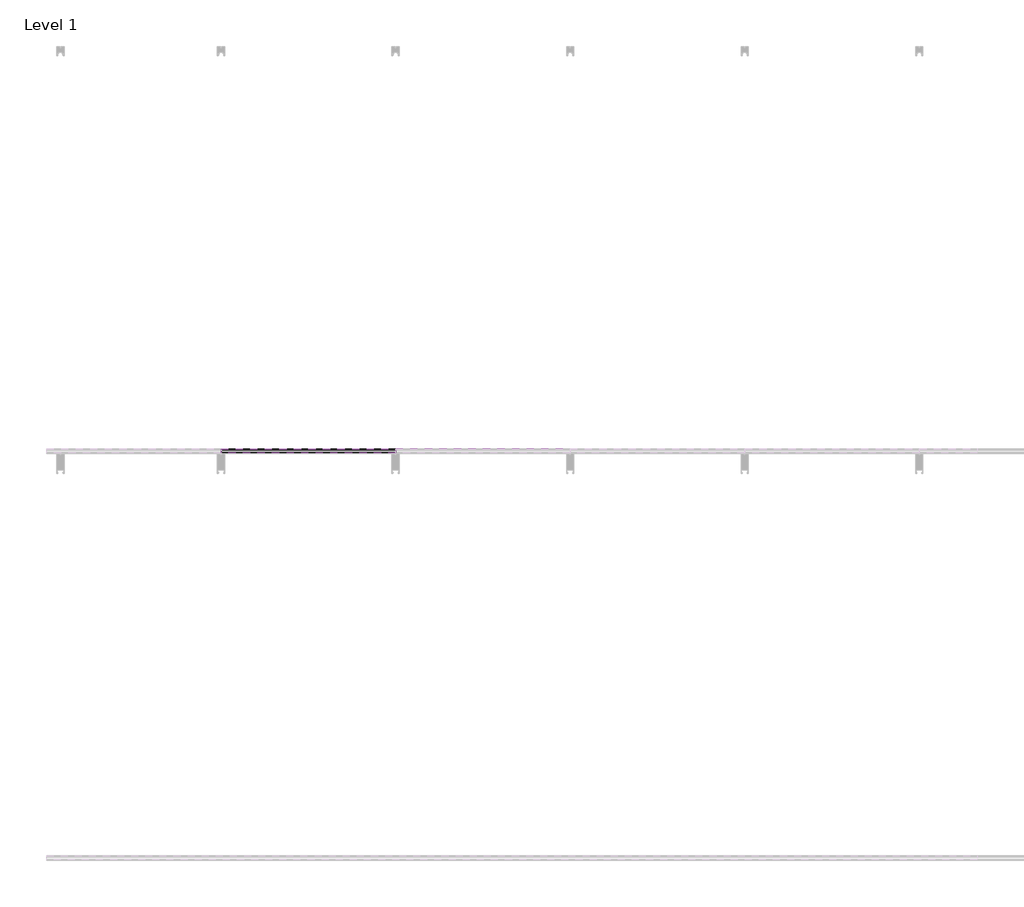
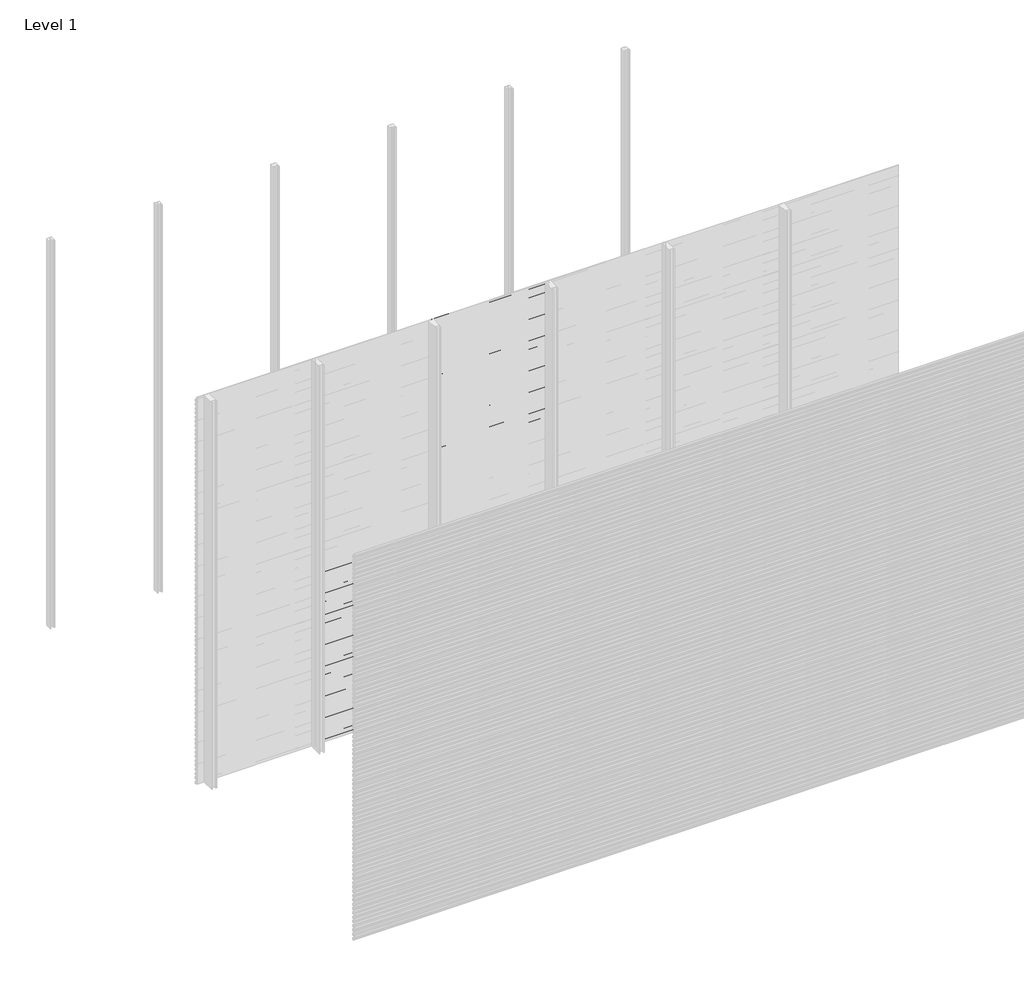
# One storey, part 63 of 96: 77 proxies.
"""IFC4 building model written with IfcOpenShell, lengths in millimetres."""

from ifc_helpers import new_model, si_unit, frame, origin, place, context, project, spatial, polyline, outline, extrude, element, save

model = new_model("IFC4")

# Units and contexts
model_context = context("Model", 3, world=origin())
ifc_project = project(units=[si_unit("LENGTHUNIT", "METRE", prefix="MILLI")], contexts=[model_context])

# Site, building, storey
site = spatial("IfcSite", under=ifc_project)
building = spatial("IfcBuilding", under=site)
storey = spatial("IfcBuildingStorey", under=building, Name="Level 1", Elevation=0.0)

# Proxies
placement = place(None, origin())
element("IfcBuildingElementProxy", 1, Name="Wall Sweeps", at=placement, inside=storey, context=model_context, shape_type="SweptSolid", body=[
    extrude(outline(polyline([(-17977.6, 1373.3655033), (-17977.6, 1359.0779188), (-17982.4114965, 1356.3), (-17982.4114965, 1357.5701706), (-17978.85, 1359.6264016), (-17978.85, 1372.6437382), (-17998.0, 1383.7000799), (-17998.0, 1398.6), (-17996.75, 1398.6), (-17996.75, 1384.4217609), (-17977.6, 1373.3655033)])), frame((857.1428571, 0.0, 0.0), z_axis=(1.0, 0.0, 0.0), x_axis=(0.0, 1.0, 0.0)), (0.0, 0.0, 1.0), 857.1428571),
])
element("IfcBuildingElementProxy", 2, Name="Wall Sweeps", at=placement, inside=storey, context=model_context, shape_type="SweptSolid", body=[
    extrude(outline(polyline([(-17977.6, 1340.0655033), (-17977.6, 1325.7779188), (-17982.4114965, 1323.0), (-17982.4114965, 1324.2701706), (-17978.85, 1326.3264016), (-17978.85, 1339.3437382), (-17998.0, 1350.4000799), (-17998.0, 1365.3), (-17996.75, 1365.3), (-17996.75, 1351.1217609), (-17977.6, 1340.0655033)])), frame((857.1428571, 0.0, 0.0), z_axis=(1.0, 0.0, 0.0), x_axis=(0.0, 1.0, 0.0)), (0.0, 0.0, 1.0), 857.1428571),
])
element("IfcBuildingElementProxy", 3, Name="Wall Sweeps", at=placement, inside=storey, context=model_context, shape_type="SweptSolid", body=[
    extrude(outline(polyline([(-17977.6, 1306.7655033), (-17977.6, 1292.4779188), (-17982.4114965, 1289.7), (-17982.4114965, 1290.9701706), (-17978.85, 1293.0264016), (-17978.85, 1306.0437382), (-17998.0, 1317.1000799), (-17998.0, 1332.0), (-17996.75, 1332.0), (-17996.75, 1317.8217609), (-17977.6, 1306.7655033)])), frame((857.1428571, 0.0, 0.0), z_axis=(1.0, 0.0, 0.0), x_axis=(0.0, 1.0, 0.0)), (0.0, 0.0, 1.0), 857.1428571),
])
element("IfcBuildingElementProxy", 4, Name="Wall Sweeps", at=placement, inside=storey, context=model_context, shape_type="SweptSolid", body=[
    extrude(outline(polyline([(-17977.6, 1273.4655033), (-17977.6, 1259.1779188), (-17982.4114965, 1256.4), (-17982.4114965, 1257.6701706), (-17978.85, 1259.7264016), (-17978.85, 1272.7437382), (-17998.0, 1283.8000799), (-17998.0, 1298.7), (-17996.75, 1298.7), (-17996.75, 1284.5217609), (-17977.6, 1273.4655033)])), frame((857.1428571, 0.0, 0.0), z_axis=(1.0, 0.0, 0.0), x_axis=(0.0, 1.0, 0.0)), (0.0, 0.0, 1.0), 857.1428571),
])
element("IfcBuildingElementProxy", 5, Name="Wall Sweeps", at=placement, inside=storey, context=model_context, shape_type="SweptSolid", body=[
    extrude(outline(polyline([(-17977.6, 1240.1655033), (-17977.6, 1225.8779188), (-17982.4114965, 1223.1), (-17982.4114965, 1224.3701706), (-17978.85, 1226.4264016), (-17978.85, 1239.4437382), (-17998.0, 1250.5000799), (-17998.0, 1265.4), (-17996.75, 1265.4), (-17996.75, 1251.2217609), (-17977.6, 1240.1655033)])), frame((857.1428571, 0.0, 0.0), z_axis=(1.0, 0.0, 0.0), x_axis=(0.0, 1.0, 0.0)), (0.0, 0.0, 1.0), 857.1428571),
])
element("IfcBuildingElementProxy", 6, Name="Wall Sweeps", at=placement, inside=storey, context=model_context, shape_type="SweptSolid", body=[
    extrude(outline(polyline([(-17977.6, 1206.8655033), (-17977.6, 1192.5779188), (-17982.4114965, 1189.8), (-17982.4114965, 1191.0701706), (-17978.85, 1193.1264016), (-17978.85, 1206.1437382), (-17998.0, 1217.2000799), (-17998.0, 1232.1), (-17996.75, 1232.1), (-17996.75, 1217.9217609), (-17977.6, 1206.8655033)])), frame((857.1428571, 0.0, 0.0), z_axis=(1.0, 0.0, 0.0), x_axis=(0.0, 1.0, 0.0)), (0.0, 0.0, 1.0), 857.1428571),
])
element("IfcBuildingElementProxy", 7, Name="Wall Sweeps", at=placement, inside=storey, context=model_context, shape_type="SweptSolid", body=[
    extrude(outline(polyline([(-17977.6, 1173.5655033), (-17977.6, 1159.2779188), (-17982.4114965, 1156.5), (-17982.4114965, 1157.7701706), (-17978.85, 1159.8264016), (-17978.85, 1172.8437382), (-17998.0, 1183.9000799), (-17998.0, 1198.8), (-17996.75, 1198.8), (-17996.75, 1184.6217609), (-17977.6, 1173.5655033)])), frame((857.1428571, 0.0, 0.0), z_axis=(1.0, 0.0, 0.0), x_axis=(0.0, 1.0, 0.0)), (0.0, 0.0, 1.0), 857.1428571),
])
element("IfcBuildingElementProxy", 8, Name="Wall Sweeps", at=placement, inside=storey, context=model_context, shape_type="SweptSolid", body=[
    extrude(outline(polyline([(-17977.6, 1140.2655033), (-17977.6, 1125.9779188), (-17982.4114965, 1123.2), (-17982.4114965, 1124.4701706), (-17978.85, 1126.5264016), (-17978.85, 1139.5437382), (-17998.0, 1150.6000799), (-17998.0, 1165.5), (-17996.75, 1165.5), (-17996.75, 1151.3217609), (-17977.6, 1140.2655033)])), frame((857.1428571, 0.0, 0.0), z_axis=(1.0, 0.0, 0.0), x_axis=(0.0, 1.0, 0.0)), (0.0, 0.0, 1.0), 857.1428571),
])
element("IfcBuildingElementProxy", 9, Name="Wall Sweeps", at=placement, inside=storey, context=model_context, shape_type="SweptSolid", body=[
    extrude(outline(polyline([(-17977.6, 1106.9655033), (-17977.6, 1092.6779188), (-17982.4114965, 1089.9), (-17982.4114965, 1091.1701706), (-17978.85, 1093.2264016), (-17978.85, 1106.2437382), (-17998.0, 1117.3000799), (-17998.0, 1132.2), (-17996.75, 1132.2), (-17996.75, 1118.0217609), (-17977.6, 1106.9655033)])), frame((857.1428571, 0.0, 0.0), z_axis=(1.0, 0.0, 0.0), x_axis=(0.0, 1.0, 0.0)), (0.0, 0.0, 1.0), 857.1428571),
])
element("IfcBuildingElementProxy", 10, Name="Wall Sweeps", at=placement, inside=storey, context=model_context, shape_type="SweptSolid", body=[
    extrude(outline(polyline([(-17977.6, 1073.6655033), (-17977.6, 1059.3779188), (-17982.4114965, 1056.6), (-17982.4114965, 1057.8701706), (-17978.85, 1059.9264016), (-17978.85, 1072.9437382), (-17998.0, 1084.0000799), (-17998.0, 1098.9), (-17996.75, 1098.9), (-17996.75, 1084.7217609), (-17977.6, 1073.6655033)])), frame((857.1428571, 0.0, 0.0), z_axis=(1.0, 0.0, 0.0), x_axis=(0.0, 1.0, 0.0)), (0.0, 0.0, 1.0), 857.1428571),
])
element("IfcBuildingElementProxy", 11, Name="Wall Sweeps", at=placement, inside=storey, context=model_context, shape_type="SweptSolid", body=[
    extrude(outline(polyline([(-17977.6, 1040.3655033), (-17977.6, 1026.0779188), (-17982.4114965, 1023.3), (-17982.4114965, 1024.5701706), (-17978.85, 1026.6264016), (-17978.85, 1039.6437382), (-17998.0, 1050.7000799), (-17998.0, 1065.6), (-17996.75, 1065.6), (-17996.75, 1051.4217609), (-17977.6, 1040.3655033)])), frame((857.1428571, 0.0, 0.0), z_axis=(1.0, 0.0, 0.0), x_axis=(0.0, 1.0, 0.0)), (0.0, 0.0, 1.0), 857.1428571),
])
element("IfcBuildingElementProxy", 12, Name="Wall Sweeps", at=placement, inside=storey, context=model_context, shape_type="SweptSolid", body=[
    extrude(outline(polyline([(-17977.6, 1007.0655033), (-17977.6, 992.7779188), (-17982.4114965, 990.0), (-17982.4114965, 991.2701706), (-17978.85, 993.3264016), (-17978.85, 1006.3437382), (-17998.0, 1017.4000799), (-17998.0, 1032.3), (-17996.75, 1032.3), (-17996.75, 1018.1217609), (-17977.6, 1007.0655033)])), frame((857.1428571, 0.0, 0.0), z_axis=(1.0, 0.0, 0.0), x_axis=(0.0, 1.0, 0.0)), (0.0, 0.0, 1.0), 857.1428571),
])
element("IfcBuildingElementProxy", 13, Name="Wall Sweeps", at=placement, inside=storey, context=model_context, shape_type="SweptSolid", body=[
    extrude(outline(polyline([(-17977.6, 973.7655033), (-17977.6, 959.4779188), (-17982.4114965, 956.7), (-17982.4114965, 957.9701706), (-17978.85, 960.0264016), (-17978.85, 973.0437382), (-17998.0, 984.1000799), (-17998.0, 999.0), (-17996.75, 999.0), (-17996.75, 984.8217609), (-17977.6, 973.7655033)])), frame((857.1428571, 0.0, 0.0), z_axis=(1.0, 0.0, 0.0), x_axis=(0.0, 1.0, 0.0)), (0.0, 0.0, 1.0), 857.1428571),
])
element("IfcBuildingElementProxy", 14, Name="Wall Sweeps", at=placement, inside=storey, context=model_context, shape_type="SweptSolid", body=[
    extrude(outline(polyline([(-17977.6, 940.4655033), (-17977.6, 926.1779188), (-17982.4114965, 923.4), (-17982.4114965, 924.6701706), (-17978.85, 926.7264016), (-17978.85, 939.7437382), (-17998.0, 950.8000799), (-17998.0, 965.7), (-17996.75, 965.7), (-17996.75, 951.5217609), (-17977.6, 940.4655033)])), frame((857.1428571, 0.0, 0.0), z_axis=(1.0, 0.0, 0.0), x_axis=(0.0, 1.0, 0.0)), (0.0, 0.0, 1.0), 857.1428571),
])
element("IfcBuildingElementProxy", 15, Name="Wall Sweeps", at=placement, inside=storey, context=model_context, shape_type="SweptSolid", body=[
    extrude(outline(polyline([(-17977.6, 907.1655033), (-17977.6, 892.8779188), (-17982.4114965, 890.1), (-17982.4114965, 891.3701706), (-17978.85, 893.4264016), (-17978.85, 906.4437382), (-17998.0, 917.5000799), (-17998.0, 932.4), (-17996.75, 932.4), (-17996.75, 918.2217609), (-17977.6, 907.1655033)])), frame((857.1428571, 0.0, 0.0), z_axis=(1.0, 0.0, 0.0), x_axis=(0.0, 1.0, 0.0)), (0.0, 0.0, 1.0), 857.1428571),
])
element("IfcBuildingElementProxy", 16, Name="Wall Sweeps", at=placement, inside=storey, context=model_context, shape_type="SweptSolid", body=[
    extrude(outline(polyline([(-17977.6, 873.8655033), (-17977.6, 859.5779188), (-17982.4114965, 856.8), (-17982.4114965, 858.0701706), (-17978.85, 860.1264016), (-17978.85, 873.1437382), (-17998.0, 884.2000799), (-17998.0, 899.1), (-17996.75, 899.1), (-17996.75, 884.9217609), (-17977.6, 873.8655033)])), frame((857.1428571, 0.0, 0.0), z_axis=(1.0, 0.0, 0.0), x_axis=(0.0, 1.0, 0.0)), (0.0, 0.0, 1.0), 857.1428571),
])
element("IfcBuildingElementProxy", 17, Name="Wall Sweeps", at=placement, inside=storey, context=model_context, shape_type="SweptSolid", body=[
    extrude(outline(polyline([(-17977.6, 840.5655033), (-17977.6, 826.2779188), (-17982.4114965, 823.5), (-17982.4114965, 824.7701706), (-17978.85, 826.8264016), (-17978.85, 839.8437382), (-17998.0, 850.9000799), (-17998.0, 865.8), (-17996.75, 865.8), (-17996.75, 851.6217609), (-17977.6, 840.5655033)])), frame((857.1428571, 0.0, 0.0), z_axis=(1.0, 0.0, 0.0), x_axis=(0.0, 1.0, 0.0)), (0.0, 0.0, 1.0), 857.1428571),
])
element("IfcBuildingElementProxy", 18, Name="Wall Sweeps", at=placement, inside=storey, context=model_context, shape_type="SweptSolid", body=[
    extrude(outline(polyline([(-17977.6, 807.2655033), (-17977.6, 792.9779188), (-17982.4114965, 790.2), (-17982.4114965, 791.4701706), (-17978.85, 793.5264016), (-17978.85, 806.5437382), (-17998.0, 817.6000799), (-17998.0, 832.5), (-17996.75, 832.5), (-17996.75, 818.3217609), (-17977.6, 807.2655033)])), frame((857.1428571, 0.0, 0.0), z_axis=(1.0, 0.0, 0.0), x_axis=(0.0, 1.0, 0.0)), (0.0, 0.0, 1.0), 857.1428571),
])
element("IfcBuildingElementProxy", 19, Name="Wall Sweeps", at=placement, inside=storey, context=model_context, shape_type="SweptSolid", body=[
    extrude(outline(polyline([(-17977.6, 773.9655033), (-17977.6, 759.6779188), (-17982.4114965, 756.9), (-17982.4114965, 758.1701706), (-17978.85, 760.2264016), (-17978.85, 773.2437382), (-17998.0, 784.3000799), (-17998.0, 799.2), (-17996.75, 799.2), (-17996.75, 785.0217609), (-17977.6, 773.9655033)])), frame((857.1428571, 0.0, 0.0), z_axis=(1.0, 0.0, 0.0), x_axis=(0.0, 1.0, 0.0)), (0.0, 0.0, 1.0), 857.1428571),
])
element("IfcBuildingElementProxy", 20, Name="Wall Sweeps", at=placement, inside=storey, context=model_context, shape_type="SweptSolid", body=[
    extrude(outline(polyline([(-17977.6, 740.6655033), (-17977.6, 726.3779188), (-17982.4114965, 723.6), (-17982.4114965, 724.8701706), (-17978.85, 726.9264016), (-17978.85, 739.9437382), (-17998.0, 751.0000799), (-17998.0, 765.9), (-17996.75, 765.9), (-17996.75, 751.7217609), (-17977.6, 740.6655033)])), frame((857.1428571, 0.0, 0.0), z_axis=(1.0, 0.0, 0.0), x_axis=(0.0, 1.0, 0.0)), (0.0, 0.0, 1.0), 857.1428571),
])
element("IfcBuildingElementProxy", 21, Name="Wall Sweeps", at=placement, inside=storey, context=model_context, shape_type="SweptSolid", body=[
    extrude(outline(polyline([(-17977.6, 707.3655033), (-17977.6, 693.0779188), (-17982.4114965, 690.3), (-17982.4114965, 691.5701706), (-17978.85, 693.6264016), (-17978.85, 706.6437382), (-17998.0, 717.7000799), (-17998.0, 732.6), (-17996.75, 732.6), (-17996.75, 718.4217609), (-17977.6, 707.3655033)])), frame((857.1428571, 0.0, 0.0), z_axis=(1.0, 0.0, 0.0), x_axis=(0.0, 1.0, 0.0)), (0.0, 0.0, 1.0), 857.1428571),
])
element("IfcBuildingElementProxy", 22, Name="Wall Sweeps", at=placement, inside=storey, context=model_context, shape_type="SweptSolid", body=[
    extrude(outline(polyline([(-17977.6, 674.0655033), (-17977.6, 659.7779188), (-17982.4114965, 657.0), (-17982.4114965, 658.2701706), (-17978.85, 660.3264016), (-17978.85, 673.3437382), (-17998.0, 684.4000799), (-17998.0, 699.3), (-17996.75, 699.3), (-17996.75, 685.1217609), (-17977.6, 674.0655033)])), frame((857.1428571, 0.0, 0.0), z_axis=(1.0, 0.0, 0.0), x_axis=(0.0, 1.0, 0.0)), (0.0, 0.0, 1.0), 857.1428571),
])
element("IfcBuildingElementProxy", 23, Name="Wall Sweeps", at=placement, inside=storey, context=model_context, shape_type="SweptSolid", body=[
    extrude(outline(polyline([(-17977.6, 640.7655033), (-17977.6, 626.4779188), (-17982.4114965, 623.7), (-17982.4114965, 624.9701706), (-17978.85, 627.0264016), (-17978.85, 640.0437382), (-17998.0, 651.1000799), (-17998.0, 666.0), (-17996.75, 666.0), (-17996.75, 651.8217609), (-17977.6, 640.7655033)])), frame((857.1428571, 0.0, 0.0), z_axis=(1.0, 0.0, 0.0), x_axis=(0.0, 1.0, 0.0)), (0.0, 0.0, 1.0), 857.1428571),
])
element("IfcBuildingElementProxy", 24, Name="Wall Sweeps", at=placement, inside=storey, context=model_context, shape_type="SweptSolid", body=[
    extrude(outline(polyline([(-17977.6, 607.4655033), (-17977.6, 593.1779188), (-17982.4114965, 590.4), (-17982.4114965, 591.6701706), (-17978.85, 593.7264016), (-17978.85, 606.7437382), (-17998.0, 617.8000799), (-17998.0, 632.7), (-17996.75, 632.7), (-17996.75, 618.5217609), (-17977.6, 607.4655033)])), frame((857.1428571, 0.0, 0.0), z_axis=(1.0, 0.0, 0.0), x_axis=(0.0, 1.0, 0.0)), (0.0, 0.0, 1.0), 857.1428571),
])
element("IfcBuildingElementProxy", 25, Name="Wall Sweeps", at=placement, inside=storey, context=model_context, shape_type="SweptSolid", body=[
    extrude(outline(polyline([(-17977.6, 574.1655033), (-17977.6, 559.8779188), (-17982.4114965, 557.1), (-17982.4114965, 558.3701706), (-17978.85, 560.4264016), (-17978.85, 573.4437382), (-17998.0, 584.5000799), (-17998.0, 599.4), (-17996.75, 599.4), (-17996.75, 585.2217609), (-17977.6, 574.1655033)])), frame((857.1428571, 0.0, 0.0), z_axis=(1.0, 0.0, 0.0), x_axis=(0.0, 1.0, 0.0)), (0.0, 0.0, 1.0), 857.1428571),
])
element("IfcBuildingElementProxy", 26, Name="Wall Sweeps", at=placement, inside=storey, context=model_context, shape_type="SweptSolid", body=[
    extrude(outline(polyline([(-17977.6, 540.8655033), (-17977.6, 526.5779188), (-17982.4114965, 523.8), (-17982.4114965, 525.0701706), (-17978.85, 527.1264016), (-17978.85, 540.1437382), (-17998.0, 551.2000799), (-17998.0, 566.1), (-17996.75, 566.1), (-17996.75, 551.9217609), (-17977.6, 540.8655033)])), frame((857.1428571, 0.0, 0.0), z_axis=(1.0, 0.0, 0.0), x_axis=(0.0, 1.0, 0.0)), (0.0, 0.0, 1.0), 857.1428571),
])
element("IfcBuildingElementProxy", 27, Name="Wall Sweeps", at=placement, inside=storey, context=model_context, shape_type="SweptSolid", body=[
    extrude(outline(polyline([(-17977.6, 507.5655033), (-17977.6, 493.2779188), (-17982.4114965, 490.5), (-17982.4114965, 491.7701706), (-17978.85, 493.8264016), (-17978.85, 506.8437382), (-17998.0, 517.9000799), (-17998.0, 532.8), (-17996.75, 532.8), (-17996.75, 518.6217609), (-17977.6, 507.5655033)])), frame((857.1428571, 0.0, 0.0), z_axis=(1.0, 0.0, 0.0), x_axis=(0.0, 1.0, 0.0)), (0.0, 0.0, 1.0), 857.1428571),
])
element("IfcBuildingElementProxy", 28, Name="Wall Sweeps", at=placement, inside=storey, context=model_context, shape_type="SweptSolid", body=[
    extrude(outline(polyline([(-17977.6, 474.2655033), (-17977.6, 459.9779188), (-17982.4114965, 457.2), (-17982.4114965, 458.4701706), (-17978.85, 460.5264016), (-17978.85, 473.5437382), (-17998.0, 484.6000799), (-17998.0, 499.5), (-17996.75, 499.5), (-17996.75, 485.3217609), (-17977.6, 474.2655033)])), frame((857.1428571, 0.0, 0.0), z_axis=(1.0, 0.0, 0.0), x_axis=(0.0, 1.0, 0.0)), (0.0, 0.0, 1.0), 857.1428571),
])
element("IfcBuildingElementProxy", 29, Name="Wall Sweeps", at=placement, inside=storey, context=model_context, shape_type="SweptSolid", body=[
    extrude(outline(polyline([(-17977.6, 440.9655033), (-17977.6, 426.6779188), (-17982.4114965, 423.9), (-17982.4114965, 425.1701706), (-17978.85, 427.2264016), (-17978.85, 440.2437382), (-17998.0, 451.3000799), (-17998.0, 466.2), (-17996.75, 466.2), (-17996.75, 452.0217609), (-17977.6, 440.9655033)])), frame((857.1428571, 0.0, 0.0), z_axis=(1.0, 0.0, 0.0), x_axis=(0.0, 1.0, 0.0)), (0.0, 0.0, 1.0), 857.1428571),
])
element("IfcBuildingElementProxy", 30, Name="Wall Sweeps", at=placement, inside=storey, context=model_context, shape_type="SweptSolid", body=[
    extrude(outline(polyline([(-17977.6, 407.6655033), (-17977.6, 393.3779188), (-17982.4114965, 390.6), (-17982.4114965, 391.8701706), (-17978.85, 393.9264016), (-17978.85, 406.9437382), (-17998.0, 418.0000799), (-17998.0, 432.9), (-17996.75, 432.9), (-17996.75, 418.7217609), (-17977.6, 407.6655033)])), frame((857.1428571, 0.0, 0.0), z_axis=(1.0, 0.0, 0.0), x_axis=(0.0, 1.0, 0.0)), (0.0, 0.0, 1.0), 857.1428571),
])
element("IfcBuildingElementProxy", 31, Name="Wall Sweeps", at=placement, inside=storey, context=model_context, shape_type="SweptSolid", body=[
    extrude(outline(polyline([(-17977.6, 374.3655033), (-17977.6, 360.0779188), (-17982.4114965, 357.3), (-17982.4114965, 358.5701706), (-17978.85, 360.6264016), (-17978.85, 373.6437382), (-17998.0, 384.7000799), (-17998.0, 399.6), (-17996.75, 399.6), (-17996.75, 385.4217609), (-17977.6, 374.3655033)])), frame((857.1428571, 0.0, 0.0), z_axis=(1.0, 0.0, 0.0), x_axis=(0.0, 1.0, 0.0)), (0.0, 0.0, 1.0), 857.1428571),
])
element("IfcBuildingElementProxy", 32, Name="Wall Sweeps", at=placement, inside=storey, context=model_context, shape_type="SweptSolid", body=[
    extrude(outline(polyline([(-17977.6, 341.0655033), (-17977.6, 326.7779188), (-17982.4114965, 324.0), (-17982.4114965, 325.2701706), (-17978.85, 327.3264016), (-17978.85, 340.3437382), (-17998.0, 351.4000799), (-17998.0, 366.3), (-17996.75, 366.3), (-17996.75, 352.1217609), (-17977.6, 341.0655033)])), frame((857.1428571, 0.0, 0.0), z_axis=(1.0, 0.0, 0.0), x_axis=(0.0, 1.0, 0.0)), (0.0, 0.0, 1.0), 857.1428571),
])
element("IfcBuildingElementProxy", 33, Name="Wall Sweeps", at=placement, inside=storey, context=model_context, shape_type="SweptSolid", body=[
    extrude(outline(polyline([(-17977.6, 307.7655033), (-17977.6, 293.4779188), (-17982.4114965, 290.7), (-17982.4114965, 291.9701706), (-17978.85, 294.0264016), (-17978.85, 307.0437382), (-17998.0, 318.1000799), (-17998.0, 333.0), (-17996.75, 333.0), (-17996.75, 318.8217609), (-17977.6, 307.7655033)])), frame((857.1428571, 0.0, 0.0), z_axis=(1.0, 0.0, 0.0), x_axis=(0.0, 1.0, 0.0)), (0.0, 0.0, 1.0), 857.1428571),
])
element("IfcBuildingElementProxy", 34, Name="Wall Sweeps", at=placement, inside=storey, context=model_context, shape_type="SweptSolid", body=[
    extrude(outline(polyline([(-17977.6, 274.4655033), (-17977.6, 260.1779188), (-17982.4114965, 257.4), (-17982.4114965, 258.6701706), (-17978.85, 260.7264016), (-17978.85, 273.7437382), (-17998.0, 284.8000799), (-17998.0, 299.7), (-17996.75, 299.7), (-17996.75, 285.5217609), (-17977.6, 274.4655033)])), frame((857.1428571, 0.0, 0.0), z_axis=(1.0, 0.0, 0.0), x_axis=(0.0, 1.0, 0.0)), (0.0, 0.0, 1.0), 857.1428571),
])
element("IfcBuildingElementProxy", 35, Name="Wall Sweeps", at=placement, inside=storey, context=model_context, shape_type="SweptSolid", body=[
    extrude(outline(polyline([(-17977.6, 241.1655033), (-17977.6, 226.8779188), (-17982.4114965, 224.1), (-17982.4114965, 225.3701706), (-17978.85, 227.4264016), (-17978.85, 240.4437382), (-17998.0, 251.5000799), (-17998.0, 266.4), (-17996.75, 266.4), (-17996.75, 252.2217609), (-17977.6, 241.1655033)])), frame((857.1428571, 0.0, 0.0), z_axis=(1.0, 0.0, 0.0), x_axis=(0.0, 1.0, 0.0)), (0.0, 0.0, 1.0), 857.1428571),
])
element("IfcBuildingElementProxy", 36, Name="Wall Sweeps", at=placement, inside=storey, context=model_context, shape_type="SweptSolid", body=[
    extrude(outline(polyline([(-17977.6, 207.8655033), (-17977.6, 193.5779188), (-17982.4114965, 190.8), (-17982.4114965, 192.0701706), (-17978.85, 194.1264016), (-17978.85, 207.1437382), (-17998.0, 218.2000799), (-17998.0, 233.1), (-17996.75, 233.1), (-17996.75, 218.9217609), (-17977.6, 207.8655033)])), frame((857.1428571, 0.0, 0.0), z_axis=(1.0, 0.0, 0.0), x_axis=(0.0, 1.0, 0.0)), (0.0, 0.0, 1.0), 857.1428571),
])
element("IfcBuildingElementProxy", 37, Name="Wall Sweeps", at=placement, inside=storey, context=model_context, shape_type="SweptSolid", body=[
    extrude(outline(polyline([(-17977.6, 174.5655033), (-17977.6, 160.2779188), (-17982.4114965, 157.5), (-17982.4114965, 158.7701706), (-17978.85, 160.8264016), (-17978.85, 173.8437382), (-17998.0, 184.9000799), (-17998.0, 199.8), (-17996.75, 199.8), (-17996.75, 185.6217609), (-17977.6, 174.5655033)])), frame((857.1428571, 0.0, 0.0), z_axis=(1.0, 0.0, 0.0), x_axis=(0.0, 1.0, 0.0)), (0.0, 0.0, 1.0), 857.1428571),
])
element("IfcBuildingElementProxy", 38, Name="Wall Sweeps", at=placement, inside=storey, context=model_context, shape_type="SweptSolid", body=[
    extrude(outline(polyline([(-17977.6, 141.2655033), (-17977.6, 126.9779188), (-17982.4114965, 124.2), (-17982.4114965, 125.4701706), (-17978.85, 127.5264016), (-17978.85, 140.5437382), (-17998.0, 151.6000799), (-17998.0, 166.5), (-17996.75, 166.5), (-17996.75, 152.3217609), (-17977.6, 141.2655033)])), frame((857.1428571, 0.0, 0.0), z_axis=(1.0, 0.0, 0.0), x_axis=(0.0, 1.0, 0.0)), (0.0, 0.0, 1.0), 857.1428571),
])
element("IfcBuildingElementProxy", 39, Name="Wall Sweeps", at=placement, inside=storey, context=model_context, shape_type="SweptSolid", body=[
    extrude(outline(polyline([(-17977.6, 107.9655033), (-17977.6, 93.6779188), (-17982.4114965, 90.9), (-17982.4114965, 92.1701706), (-17978.85, 94.2264016), (-17978.85, 107.2437382), (-17998.0, 118.3000799), (-17998.0, 133.2), (-17996.75, 133.2), (-17996.75, 119.0217609), (-17977.6, 107.9655033)])), frame((857.1428571, 0.0, 0.0), z_axis=(1.0, 0.0, 0.0), x_axis=(0.0, 1.0, 0.0)), (0.0, 0.0, 1.0), 857.1428571),
])
element("IfcBuildingElementProxy", 40, Name="Wall Sweeps", at=placement, inside=storey, context=model_context, shape_type="SweptSolid", body=[
    extrude(outline(polyline([(-17977.6, 74.6655033), (-17977.6, 60.3779188), (-17982.4114965, 57.6), (-17982.4114965, 58.8701706), (-17978.85, 60.9264016), (-17978.85, 73.9437382), (-17998.0, 85.0000799), (-17998.0, 99.9), (-17996.75, 99.9), (-17996.75, 85.7217609), (-17977.6, 74.6655033)])), frame((857.1428571, 0.0, 0.0), z_axis=(1.0, 0.0, 0.0), x_axis=(0.0, 1.0, 0.0)), (0.0, 0.0, 1.0), 857.1428571),
])
element("IfcBuildingElementProxy", 41, Name="Wall Sweeps", at=placement, inside=storey, context=model_context, shape_type="SweptSolid", body=[
    extrude(outline(polyline([(-17977.6, 41.3655033), (-17977.6, 27.0779188), (-17982.4114965, 24.3), (-17982.4114965, 25.5701706), (-17978.85, 27.6264016), (-17978.85, 40.6437382), (-17998.0, 51.7000799), (-17998.0, 66.6), (-17996.75, 66.6), (-17996.75, 52.4217609), (-17977.6, 41.3655033)])), frame((857.1428571, 0.0, 0.0), z_axis=(1.0, 0.0, 0.0), x_axis=(0.0, 1.0, 0.0)), (0.0, 0.0, 1.0), 857.1428571),
])
element("IfcBuildingElementProxy", 42, Name="Wall Sweeps", at=placement, inside=storey, context=model_context, shape_type="SweptSolid", body=[
    extrude(outline(polyline([(-17977.6, 8.0655033), (-17977.6, -6.2220812), (-17982.4114965, -9.0), (-17982.4114965, -7.7298294), (-17978.85, -5.6735984), (-17978.85, 7.3437382), (-17998.0, 18.4000799), (-17998.0, 33.3), (-17996.75, 33.3), (-17996.75, 19.1217609), (-17977.6, 8.0655033)])), frame((857.1428571, 0.0, 0.0), z_axis=(1.0, 0.0, 0.0), x_axis=(0.0, 1.0, 0.0)), (0.0, 0.0, 1.0), 857.1428571),
])
element("IfcBuildingElementProxy", 43, Name="Wall Sweeps", at=placement, inside=storey, context=model_context, shape_type="SweptSolid", body=[
    extrude(outline(polyline([(-17977.6, 2971.7655033), (-17977.6, 2957.4779188), (-17982.4114965, 2954.7), (-17982.4114965, 2955.9701706), (-17978.85, 2958.0264016), (-17978.85, 2971.0437382), (-17998.0, 2982.1000799), (-17998.0, 2997.0), (-17996.75, 2997.0), (-17996.75, 2982.8217609), (-17977.6, 2971.7655033)])), frame((1714.2857143, 0.0, 0.0), z_axis=(1.0, 0.0, 0.0), x_axis=(0.0, 1.0, 0.0)), (0.0, 0.0, 1.0), 857.1428571),
])
element("IfcBuildingElementProxy", 44, Name="Wall Sweeps", at=placement, inside=storey, context=model_context, shape_type="SweptSolid", body=[
    extrude(outline(polyline([(-17977.6, 2938.4655033), (-17977.6, 2924.1779188), (-17982.4114965, 2921.4), (-17982.4114965, 2922.6701706), (-17978.85, 2924.7264016), (-17978.85, 2937.7437382), (-17998.0, 2948.8000799), (-17998.0, 2963.7), (-17996.75, 2963.7), (-17996.75, 2949.5217609), (-17977.6, 2938.4655033)])), frame((1714.2857143, 0.0, 0.0), z_axis=(1.0, 0.0, 0.0), x_axis=(0.0, 1.0, 0.0)), (0.0, 0.0, 1.0), 857.1428571),
])
element("IfcBuildingElementProxy", 45, Name="Wall Sweeps", at=placement, inside=storey, context=model_context, shape_type="SweptSolid", body=[
    extrude(outline(polyline([(-17977.6, 2905.1655033), (-17977.6, 2890.8779188), (-17982.4114965, 2888.1), (-17982.4114965, 2889.3701706), (-17978.85, 2891.4264016), (-17978.85, 2904.4437382), (-17998.0, 2915.5000799), (-17998.0, 2930.4), (-17996.75, 2930.4), (-17996.75, 2916.2217609), (-17977.6, 2905.1655033)])), frame((1714.2857143, 0.0, 0.0), z_axis=(1.0, 0.0, 0.0), x_axis=(0.0, 1.0, 0.0)), (0.0, 0.0, 1.0), 857.1428571),
])
element("IfcBuildingElementProxy", 46, Name="Wall Sweeps", at=placement, inside=storey, context=model_context, shape_type="SweptSolid", body=[
    extrude(outline(polyline([(-17977.6, 2871.8655033), (-17977.6, 2857.5779188), (-17982.4114965, 2854.8), (-17982.4114965, 2856.0701706), (-17978.85, 2858.1264016), (-17978.85, 2871.1437382), (-17998.0, 2882.2000799), (-17998.0, 2897.1), (-17996.75, 2897.1), (-17996.75, 2882.9217609), (-17977.6, 2871.8655033)])), frame((1714.2857143, 0.0, 0.0), z_axis=(1.0, 0.0, 0.0), x_axis=(0.0, 1.0, 0.0)), (0.0, 0.0, 1.0), 857.1428571),
])
element("IfcBuildingElementProxy", 47, Name="Wall Sweeps", at=placement, inside=storey, context=model_context, shape_type="SweptSolid", body=[
    extrude(outline(polyline([(-17977.6, 2838.5655033), (-17977.6, 2824.2779188), (-17982.4114965, 2821.5), (-17982.4114965, 2822.7701706), (-17978.85, 2824.8264016), (-17978.85, 2837.8437382), (-17998.0, 2848.9000799), (-17998.0, 2863.8), (-17996.75, 2863.8), (-17996.75, 2849.6217609), (-17977.6, 2838.5655033)])), frame((1714.2857143, 0.0, 0.0), z_axis=(1.0, 0.0, 0.0), x_axis=(0.0, 1.0, 0.0)), (0.0, 0.0, 1.0), 857.1428571),
])
element("IfcBuildingElementProxy", 48, Name="Wall Sweeps", at=placement, inside=storey, context=model_context, shape_type="SweptSolid", body=[
    extrude(outline(polyline([(-17977.6, 2805.2655033), (-17977.6, 2790.9779188), (-17982.4114965, 2788.2), (-17982.4114965, 2789.4701706), (-17978.85, 2791.5264016), (-17978.85, 2804.5437382), (-17998.0, 2815.6000799), (-17998.0, 2830.5), (-17996.75, 2830.5), (-17996.75, 2816.3217609), (-17977.6, 2805.2655033)])), frame((1714.2857143, 0.0, 0.0), z_axis=(1.0, 0.0, 0.0), x_axis=(0.0, 1.0, 0.0)), (0.0, 0.0, 1.0), 857.1428571),
])
element("IfcBuildingElementProxy", 49, Name="Wall Sweeps", at=placement, inside=storey, context=model_context, shape_type="SweptSolid", body=[
    extrude(outline(polyline([(-17977.6, 2771.9655033), (-17977.6, 2757.6779188), (-17982.4114965, 2754.9), (-17982.4114965, 2756.1701706), (-17978.85, 2758.2264016), (-17978.85, 2771.2437382), (-17998.0, 2782.3000799), (-17998.0, 2797.2), (-17996.75, 2797.2), (-17996.75, 2783.0217609), (-17977.6, 2771.9655033)])), frame((1714.2857143, 0.0, 0.0), z_axis=(1.0, 0.0, 0.0), x_axis=(0.0, 1.0, 0.0)), (0.0, 0.0, 1.0), 857.1428571),
])
element("IfcBuildingElementProxy", 50, Name="Wall Sweeps", at=placement, inside=storey, context=model_context, shape_type="SweptSolid", body=[
    extrude(outline(polyline([(-17977.6, 2738.6655033), (-17977.6, 2724.3779188), (-17982.4114965, 2721.6), (-17982.4114965, 2722.8701706), (-17978.85, 2724.9264016), (-17978.85, 2737.9437382), (-17998.0, 2749.0000799), (-17998.0, 2763.9), (-17996.75, 2763.9), (-17996.75, 2749.7217609), (-17977.6, 2738.6655033)])), frame((1714.2857143, 0.0, 0.0), z_axis=(1.0, 0.0, 0.0), x_axis=(0.0, 1.0, 0.0)), (0.0, 0.0, 1.0), 857.1428571),
])
element("IfcBuildingElementProxy", 51, Name="Wall Sweeps", at=placement, inside=storey, context=model_context, shape_type="SweptSolid", body=[
    extrude(outline(polyline([(-17977.6, 2705.3655033), (-17977.6, 2691.0779188), (-17982.4114965, 2688.3), (-17982.4114965, 2689.5701706), (-17978.85, 2691.6264016), (-17978.85, 2704.6437382), (-17998.0, 2715.7000799), (-17998.0, 2730.6), (-17996.75, 2730.6), (-17996.75, 2716.4217609), (-17977.6, 2705.3655033)])), frame((1714.2857143, 0.0, 0.0), z_axis=(1.0, 0.0, 0.0), x_axis=(0.0, 1.0, 0.0)), (0.0, 0.0, 1.0), 857.1428571),
])
element("IfcBuildingElementProxy", 52, Name="Wall Sweeps", at=placement, inside=storey, context=model_context, shape_type="SweptSolid", body=[
    extrude(outline(polyline([(-17977.6, 2672.0655033), (-17977.6, 2657.7779188), (-17982.4114965, 2655.0), (-17982.4114965, 2656.2701706), (-17978.85, 2658.3264016), (-17978.85, 2671.3437382), (-17998.0, 2682.4000799), (-17998.0, 2697.3), (-17996.75, 2697.3), (-17996.75, 2683.1217609), (-17977.6, 2672.0655033)])), frame((1714.2857143, 0.0, 0.0), z_axis=(1.0, 0.0, 0.0), x_axis=(0.0, 1.0, 0.0)), (0.0, 0.0, 1.0), 857.1428571),
])
element("IfcBuildingElementProxy", 53, Name="Wall Sweeps", at=placement, inside=storey, context=model_context, shape_type="SweptSolid", body=[
    extrude(outline(polyline([(-17977.6, 2638.7655033), (-17977.6, 2624.4779188), (-17982.4114965, 2621.7), (-17982.4114965, 2622.9701706), (-17978.85, 2625.0264016), (-17978.85, 2638.0437382), (-17998.0, 2649.1000799), (-17998.0, 2664.0), (-17996.75, 2664.0), (-17996.75, 2649.8217609), (-17977.6, 2638.7655033)])), frame((1714.2857143, 0.0, 0.0), z_axis=(1.0, 0.0, 0.0), x_axis=(0.0, 1.0, 0.0)), (0.0, 0.0, 1.0), 857.1428571),
])
element("IfcBuildingElementProxy", 54, Name="Wall Sweeps", at=placement, inside=storey, context=model_context, shape_type="SweptSolid", body=[
    extrude(outline(polyline([(-17977.6, 2605.4655033), (-17977.6, 2591.1779188), (-17982.4114965, 2588.4), (-17982.4114965, 2589.6701706), (-17978.85, 2591.7264016), (-17978.85, 2604.7437382), (-17998.0, 2615.8000799), (-17998.0, 2630.7), (-17996.75, 2630.7), (-17996.75, 2616.5217609), (-17977.6, 2605.4655033)])), frame((1714.2857143, 0.0, 0.0), z_axis=(1.0, 0.0, 0.0), x_axis=(0.0, 1.0, 0.0)), (0.0, 0.0, 1.0), 857.1428571),
])
element("IfcBuildingElementProxy", 55, Name="Wall Sweeps", at=placement, inside=storey, context=model_context, shape_type="SweptSolid", body=[
    extrude(outline(polyline([(-17977.6, 2572.1655033), (-17977.6, 2557.8779188), (-17982.4114965, 2555.1), (-17982.4114965, 2556.3701706), (-17978.85, 2558.4264016), (-17978.85, 2571.4437382), (-17998.0, 2582.5000799), (-17998.0, 2597.4), (-17996.75, 2597.4), (-17996.75, 2583.2217609), (-17977.6, 2572.1655033)])), frame((1714.2857143, 0.0, 0.0), z_axis=(1.0, 0.0, 0.0), x_axis=(0.0, 1.0, 0.0)), (0.0, 0.0, 1.0), 857.1428571),
])
element("IfcBuildingElementProxy", 56, Name="Wall Sweeps", at=placement, inside=storey, context=model_context, shape_type="SweptSolid", body=[
    extrude(outline(polyline([(-17977.6, 2538.8655033), (-17977.6, 2524.5779188), (-17982.4114965, 2521.8), (-17982.4114965, 2523.0701706), (-17978.85, 2525.1264016), (-17978.85, 2538.1437382), (-17998.0, 2549.2000799), (-17998.0, 2564.1), (-17996.75, 2564.1), (-17996.75, 2549.9217609), (-17977.6, 2538.8655033)])), frame((1714.2857143, 0.0, 0.0), z_axis=(1.0, 0.0, 0.0), x_axis=(0.0, 1.0, 0.0)), (0.0, 0.0, 1.0), 857.1428571),
])
element("IfcBuildingElementProxy", 57, Name="Wall Sweeps", at=placement, inside=storey, context=model_context, shape_type="SweptSolid", body=[
    extrude(outline(polyline([(-17977.6, 2505.5655033), (-17977.6, 2491.2779188), (-17982.4114965, 2488.5), (-17982.4114965, 2489.7701706), (-17978.85, 2491.8264016), (-17978.85, 2504.8437382), (-17998.0, 2515.9000799), (-17998.0, 2530.8), (-17996.75, 2530.8), (-17996.75, 2516.6217609), (-17977.6, 2505.5655033)])), frame((1714.2857143, 0.0, 0.0), z_axis=(1.0, 0.0, 0.0), x_axis=(0.0, 1.0, 0.0)), (0.0, 0.0, 1.0), 857.1428571),
])
element("IfcBuildingElementProxy", 58, Name="Wall Sweeps", at=placement, inside=storey, context=model_context, shape_type="SweptSolid", body=[
    extrude(outline(polyline([(-17977.6, 2472.2655033), (-17977.6, 2457.9779188), (-17982.4114965, 2455.2), (-17982.4114965, 2456.4701706), (-17978.85, 2458.5264016), (-17978.85, 2471.5437382), (-17998.0, 2482.6000799), (-17998.0, 2497.5), (-17996.75, 2497.5), (-17996.75, 2483.3217609), (-17977.6, 2472.2655033)])), frame((1714.2857143, 0.0, 0.0), z_axis=(1.0, 0.0, 0.0), x_axis=(0.0, 1.0, 0.0)), (0.0, 0.0, 1.0), 857.1428571),
])
element("IfcBuildingElementProxy", 59, Name="Wall Sweeps", at=placement, inside=storey, context=model_context, shape_type="SweptSolid", body=[
    extrude(outline(polyline([(-17977.6, 2438.9655033), (-17977.6, 2424.6779188), (-17982.4114965, 2421.9), (-17982.4114965, 2423.1701706), (-17978.85, 2425.2264016), (-17978.85, 2438.2437382), (-17998.0, 2449.3000799), (-17998.0, 2464.2), (-17996.75, 2464.2), (-17996.75, 2450.0217609), (-17977.6, 2438.9655033)])), frame((1714.2857143, 0.0, 0.0), z_axis=(1.0, 0.0, 0.0), x_axis=(0.0, 1.0, 0.0)), (0.0, 0.0, 1.0), 857.1428571),
])
element("IfcBuildingElementProxy", 60, Name="Wall Sweeps", at=placement, inside=storey, context=model_context, shape_type="SweptSolid", body=[
    extrude(outline(polyline([(-17977.6, 2405.6655033), (-17977.6, 2391.3779188), (-17982.4114965, 2388.6), (-17982.4114965, 2389.8701706), (-17978.85, 2391.9264016), (-17978.85, 2404.9437382), (-17998.0, 2416.0000799), (-17998.0, 2430.9), (-17996.75, 2430.9), (-17996.75, 2416.7217609), (-17977.6, 2405.6655033)])), frame((1714.2857143, 0.0, 0.0), z_axis=(1.0, 0.0, 0.0), x_axis=(0.0, 1.0, 0.0)), (0.0, 0.0, 1.0), 857.1428571),
])
element("IfcBuildingElementProxy", 61, Name="Wall Sweeps", at=placement, inside=storey, context=model_context, shape_type="SweptSolid", body=[
    extrude(outline(polyline([(-17977.6, 2372.3655033), (-17977.6, 2358.0779188), (-17982.4114965, 2355.3), (-17982.4114965, 2356.5701706), (-17978.85, 2358.6264016), (-17978.85, 2371.6437382), (-17998.0, 2382.7000799), (-17998.0, 2397.6), (-17996.75, 2397.6), (-17996.75, 2383.4217609), (-17977.6, 2372.3655033)])), frame((1714.2857143, 0.0, 0.0), z_axis=(1.0, 0.0, 0.0), x_axis=(0.0, 1.0, 0.0)), (0.0, 0.0, 1.0), 857.1428571),
])
element("IfcBuildingElementProxy", 62, Name="Wall Sweeps", at=placement, inside=storey, context=model_context, shape_type="SweptSolid", body=[
    extrude(outline(polyline([(-17977.6, 2339.0655033), (-17977.6, 2324.7779188), (-17982.4114965, 2322.0), (-17982.4114965, 2323.2701706), (-17978.85, 2325.3264016), (-17978.85, 2338.3437382), (-17998.0, 2349.4000799), (-17998.0, 2364.3), (-17996.75, 2364.3), (-17996.75, 2350.1217609), (-17977.6, 2339.0655033)])), frame((1714.2857143, 0.0, 0.0), z_axis=(1.0, 0.0, 0.0), x_axis=(0.0, 1.0, 0.0)), (0.0, 0.0, 1.0), 857.1428571),
])
element("IfcBuildingElementProxy", 63, Name="Wall Sweeps", at=placement, inside=storey, context=model_context, shape_type="SweptSolid", body=[
    extrude(outline(polyline([(-17977.6, 2305.7655033), (-17977.6, 2291.4779188), (-17982.4114965, 2288.7), (-17982.4114965, 2289.9701706), (-17978.85, 2292.0264016), (-17978.85, 2305.0437382), (-17998.0, 2316.1000799), (-17998.0, 2331.0), (-17996.75, 2331.0), (-17996.75, 2316.8217609), (-17977.6, 2305.7655033)])), frame((1714.2857143, 0.0, 0.0), z_axis=(1.0, 0.0, 0.0), x_axis=(0.0, 1.0, 0.0)), (0.0, 0.0, 1.0), 857.1428571),
])
element("IfcBuildingElementProxy", 64, Name="Wall Sweeps", at=placement, inside=storey, context=model_context, shape_type="SweptSolid", body=[
    extrude(outline(polyline([(-17977.6, 2272.4655033), (-17977.6, 2258.1779188), (-17982.4114965, 2255.4), (-17982.4114965, 2256.6701706), (-17978.85, 2258.7264016), (-17978.85, 2271.7437382), (-17998.0, 2282.8000799), (-17998.0, 2297.7), (-17996.75, 2297.7), (-17996.75, 2283.5217609), (-17977.6, 2272.4655033)])), frame((1714.2857143, 0.0, 0.0), z_axis=(1.0, 0.0, 0.0), x_axis=(0.0, 1.0, 0.0)), (0.0, 0.0, 1.0), 857.1428571),
])
element("IfcBuildingElementProxy", 65, Name="Wall Sweeps", at=placement, inside=storey, context=model_context, shape_type="SweptSolid", body=[
    extrude(outline(polyline([(-17977.6, 2239.1655033), (-17977.6, 2224.8779188), (-17982.4114965, 2222.1), (-17982.4114965, 2223.3701706), (-17978.85, 2225.4264016), (-17978.85, 2238.4437382), (-17998.0, 2249.5000799), (-17998.0, 2264.4), (-17996.75, 2264.4), (-17996.75, 2250.2217609), (-17977.6, 2239.1655033)])), frame((1714.2857143, 0.0, 0.0), z_axis=(1.0, 0.0, 0.0), x_axis=(0.0, 1.0, 0.0)), (0.0, 0.0, 1.0), 857.1428571),
])
element("IfcBuildingElementProxy", 66, Name="Wall Sweeps", at=placement, inside=storey, context=model_context, shape_type="SweptSolid", body=[
    extrude(outline(polyline([(-17977.6, 2205.8655033), (-17977.6, 2191.5779188), (-17982.4114965, 2188.8), (-17982.4114965, 2190.0701706), (-17978.85, 2192.1264016), (-17978.85, 2205.1437382), (-17998.0, 2216.2000799), (-17998.0, 2231.1), (-17996.75, 2231.1), (-17996.75, 2216.9217609), (-17977.6, 2205.8655033)])), frame((1714.2857143, 0.0, 0.0), z_axis=(1.0, 0.0, 0.0), x_axis=(0.0, 1.0, 0.0)), (0.0, 0.0, 1.0), 857.1428571),
])
element("IfcBuildingElementProxy", 67, Name="Wall Sweeps", at=placement, inside=storey, context=model_context, shape_type="SweptSolid", body=[
    extrude(outline(polyline([(-17977.6, 2172.5655033), (-17977.6, 2158.2779188), (-17982.4114965, 2155.5), (-17982.4114965, 2156.7701706), (-17978.85, 2158.8264016), (-17978.85, 2171.8437382), (-17998.0, 2182.9000799), (-17998.0, 2197.8), (-17996.75, 2197.8), (-17996.75, 2183.6217609), (-17977.6, 2172.5655033)])), frame((1714.2857143, 0.0, 0.0), z_axis=(1.0, 0.0, 0.0), x_axis=(0.0, 1.0, 0.0)), (0.0, 0.0, 1.0), 857.1428571),
])
element("IfcBuildingElementProxy", 68, Name="Wall Sweeps", at=placement, inside=storey, context=model_context, shape_type="SweptSolid", body=[
    extrude(outline(polyline([(-17977.6, 2139.2655033), (-17977.6, 2124.9779188), (-17982.4114965, 2122.2), (-17982.4114965, 2123.4701706), (-17978.85, 2125.5264016), (-17978.85, 2138.5437382), (-17998.0, 2149.6000799), (-17998.0, 2164.5), (-17996.75, 2164.5), (-17996.75, 2150.3217609), (-17977.6, 2139.2655033)])), frame((1714.2857143, 0.0, 0.0), z_axis=(1.0, 0.0, 0.0), x_axis=(0.0, 1.0, 0.0)), (0.0, 0.0, 1.0), 857.1428571),
])
element("IfcBuildingElementProxy", 69, Name="Wall Sweeps", at=placement, inside=storey, context=model_context, shape_type="SweptSolid", body=[
    extrude(outline(polyline([(-17977.6, 2105.9655033), (-17977.6, 2091.6779188), (-17982.4114965, 2088.9), (-17982.4114965, 2090.1701706), (-17978.85, 2092.2264016), (-17978.85, 2105.2437382), (-17998.0, 2116.3000799), (-17998.0, 2131.2), (-17996.75, 2131.2), (-17996.75, 2117.0217609), (-17977.6, 2105.9655033)])), frame((1714.2857143, 0.0, 0.0), z_axis=(1.0, 0.0, 0.0), x_axis=(0.0, 1.0, 0.0)), (0.0, 0.0, 1.0), 857.1428571),
])
element("IfcBuildingElementProxy", 70, Name="Wall Sweeps", at=placement, inside=storey, context=model_context, shape_type="SweptSolid", body=[
    extrude(outline(polyline([(-17977.6, 2072.6655033), (-17977.6, 2058.3779188), (-17982.4114965, 2055.6), (-17982.4114965, 2056.8701706), (-17978.85, 2058.9264016), (-17978.85, 2071.9437382), (-17998.0, 2083.0000799), (-17998.0, 2097.9), (-17996.75, 2097.9), (-17996.75, 2083.7217609), (-17977.6, 2072.6655033)])), frame((1714.2857143, 0.0, 0.0), z_axis=(1.0, 0.0, 0.0), x_axis=(0.0, 1.0, 0.0)), (0.0, 0.0, 1.0), 857.1428571),
])
element("IfcBuildingElementProxy", 71, Name="Wall Sweeps", at=placement, inside=storey, context=model_context, shape_type="SweptSolid", body=[
    extrude(outline(polyline([(-17977.6, 2039.3655033), (-17977.6, 2025.0779188), (-17982.4114965, 2022.3), (-17982.4114965, 2023.5701706), (-17978.85, 2025.6264016), (-17978.85, 2038.6437382), (-17998.0, 2049.7000799), (-17998.0, 2064.6), (-17996.75, 2064.6), (-17996.75, 2050.4217609), (-17977.6, 2039.3655033)])), frame((1714.2857143, 0.0, 0.0), z_axis=(1.0, 0.0, 0.0), x_axis=(0.0, 1.0, 0.0)), (0.0, 0.0, 1.0), 857.1428571),
])
element("IfcBuildingElementProxy", 72, Name="Wall Sweeps", at=placement, inside=storey, context=model_context, shape_type="SweptSolid", body=[
    extrude(outline(polyline([(-17977.6, 2006.0655033), (-17977.6, 1991.7779188), (-17982.4114965, 1989.0), (-17982.4114965, 1990.2701706), (-17978.85, 1992.3264016), (-17978.85, 2005.3437382), (-17998.0, 2016.4000799), (-17998.0, 2031.3), (-17996.75, 2031.3), (-17996.75, 2017.1217609), (-17977.6, 2006.0655033)])), frame((1714.2857143, 0.0, 0.0), z_axis=(1.0, 0.0, 0.0), x_axis=(0.0, 1.0, 0.0)), (0.0, 0.0, 1.0), 857.1428571),
])
element("IfcBuildingElementProxy", 73, Name="Wall Sweeps", at=placement, inside=storey, context=model_context, shape_type="SweptSolid", body=[
    extrude(outline(polyline([(-17977.6, 1972.7655033), (-17977.6, 1958.4779188), (-17982.4114965, 1955.7), (-17982.4114965, 1956.9701706), (-17978.85, 1959.0264016), (-17978.85, 1972.0437382), (-17998.0, 1983.1000799), (-17998.0, 1998.0), (-17996.75, 1998.0), (-17996.75, 1983.8217609), (-17977.6, 1972.7655033)])), frame((1714.2857143, 0.0, 0.0), z_axis=(1.0, 0.0, 0.0), x_axis=(0.0, 1.0, 0.0)), (0.0, 0.0, 1.0), 857.1428571),
])
element("IfcBuildingElementProxy", 74, Name="Wall Sweeps", at=placement, inside=storey, context=model_context, shape_type="SweptSolid", body=[
    extrude(outline(polyline([(-17977.6, 1939.4655033), (-17977.6, 1925.1779188), (-17982.4114965, 1922.4), (-17982.4114965, 1923.6701706), (-17978.85, 1925.7264016), (-17978.85, 1938.7437382), (-17998.0, 1949.8000799), (-17998.0, 1964.7), (-17996.75, 1964.7), (-17996.75, 1950.5217609), (-17977.6, 1939.4655033)])), frame((1714.2857143, 0.0, 0.0), z_axis=(1.0, 0.0, 0.0), x_axis=(0.0, 1.0, 0.0)), (0.0, 0.0, 1.0), 857.1428571),
])
element("IfcBuildingElementProxy", 75, Name="Wall Sweeps", at=placement, inside=storey, context=model_context, shape_type="SweptSolid", body=[
    extrude(outline(polyline([(-17977.6, 1906.1655033), (-17977.6, 1891.8779188), (-17982.4114965, 1889.1), (-17982.4114965, 1890.3701706), (-17978.85, 1892.4264016), (-17978.85, 1905.4437382), (-17998.0, 1916.5000799), (-17998.0, 1931.4), (-17996.75, 1931.4), (-17996.75, 1917.2217609), (-17977.6, 1906.1655033)])), frame((1714.2857143, 0.0, 0.0), z_axis=(1.0, 0.0, 0.0), x_axis=(0.0, 1.0, 0.0)), (0.0, 0.0, 1.0), 857.1428571),
])
element("IfcBuildingElementProxy", 76, Name="Wall Sweeps", at=placement, inside=storey, context=model_context, shape_type="SweptSolid", body=[
    extrude(outline(polyline([(-17977.6, 1872.8655033), (-17977.6, 1858.5779188), (-17982.4114965, 1855.8), (-17982.4114965, 1857.0701706), (-17978.85, 1859.1264016), (-17978.85, 1872.1437382), (-17998.0, 1883.2000799), (-17998.0, 1898.1), (-17996.75, 1898.1), (-17996.75, 1883.9217609), (-17977.6, 1872.8655033)])), frame((1714.2857143, 0.0, 0.0), z_axis=(1.0, 0.0, 0.0), x_axis=(0.0, 1.0, 0.0)), (0.0, 0.0, 1.0), 857.1428571),
])
element("IfcBuildingElementProxy", 77, Name="Wall Sweeps", at=placement, inside=storey, context=model_context, shape_type="SweptSolid", body=[
    extrude(outline(polyline([(-17977.6, 1839.5655033), (-17977.6, 1825.2779188), (-17982.4114965, 1822.5), (-17982.4114965, 1823.7701706), (-17978.85, 1825.8264016), (-17978.85, 1838.8437382), (-17998.0, 1849.9000799), (-17998.0, 1864.8), (-17996.75, 1864.8), (-17996.75, 1850.6217609), (-17977.6, 1839.5655033)])), frame((1714.2857143, 0.0, 0.0), z_axis=(1.0, 0.0, 0.0), x_axis=(0.0, 1.0, 0.0)), (0.0, 0.0, 1.0), 857.1428571),
])

save(model, "model.ifc")
